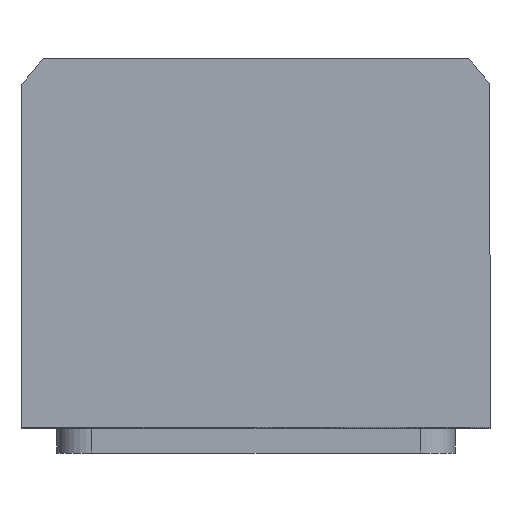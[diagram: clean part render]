
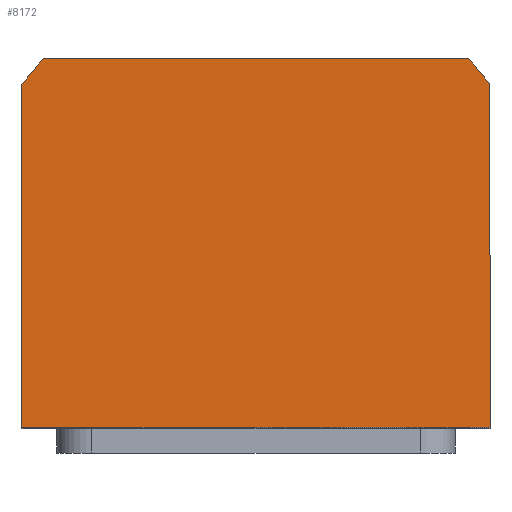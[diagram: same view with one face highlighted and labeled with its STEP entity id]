
A CAD part, top view. The second image highlights one B-rep face of the part: STEP entity #8172.
In plain terms, the highlighted planar face has unit normal (0, 0, 1).
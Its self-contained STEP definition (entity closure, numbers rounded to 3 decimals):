
#295 = ORIENTED_EDGE ( 'NONE', *, *, #4273, .T. ) ;
#638 = CARTESIAN_POINT ( 'NONE',  ( -42.688, 40., 80. ) ) ;
#745 = ORIENTED_EDGE ( 'NONE', *, *, #2583, .T. ) ;
#757 = AXIS2_PLACEMENT_3D ( 'NONE', #14779, #13568, #11237 ) ;
#1028 = VERTEX_POINT ( 'NONE', #1443 ) ;
#1221 = DIRECTION ( 'NONE',  ( 0., 1., 0. ) ) ;
#1443 = CARTESIAN_POINT ( 'NONE',  ( -47., -34., 80. ) ) ;
#1661 = LINE ( 'NONE', #12121, #14105 ) ;
#1721 = ORIENTED_EDGE ( 'NONE', *, *, #14505, .T. ) ;
#2122 = ORIENTED_EDGE ( 'NONE', *, *, #12365, .T. ) ;
#2305 = CARTESIAN_POINT ( 'NONE',  ( -42.688, 40., 80. ) ) ;
#2553 = DIRECTION ( 'NONE',  ( 0., 0., 1. ) ) ;
#2583 = EDGE_CURVE ( 'NONE', #7762, #13221, #4961, .T. ) ;
#2958 = VECTOR ( 'NONE', #1221, 1000. ) ;
#2990 = VERTEX_POINT ( 'NONE', #5923 ) ;
#3685 = DIRECTION ( 'NONE',  ( 1., 0., 0. ) ) ;
#4134 = AXIS2_PLACEMENT_3D ( 'NONE', #10547, #2553, #3685 ) ;
#4143 = CARTESIAN_POINT ( 'NONE',  ( 47., 34.832, 80. ) ) ;
#4158 = CIRCLE ( 'NONE', #4134, 58.5 ) ;
#4169 = CIRCLE ( 'NONE', #14877, 58.5 ) ;
#4273 = EDGE_CURVE ( 'NONE', #1028, #2990, #12123, .T. ) ;
#4422 = CARTESIAN_POINT ( 'NONE',  ( -47., 34.832, 80. ) ) ;
#4961 = LINE ( 'NONE', #638, #8230 ) ;
#5191 = DIRECTION ( 'NONE',  ( 0., -1., 0. ) ) ;
#5473 = FACE_OUTER_BOUND ( 'NONE', #14452, .T. ) ;
#5923 = CARTESIAN_POINT ( 'NONE',  ( 47., -34., 80. ) ) ;
#6718 = CARTESIAN_POINT ( 'NONE',  ( 47., 34.832, 80. ) ) ;
#6770 = EDGE_CURVE ( 'NONE', #8965, #1028, #1661, .T. ) ;
#7081 = LINE ( 'NONE', #6718, #2958 ) ;
#7613 = PLANE ( 'NONE',  #757 ) ;
#7614 = ORIENTED_EDGE ( 'NONE', *, *, #13596, .T. ) ;
#7762 = VERTEX_POINT ( 'NONE', #10472 ) ;
#8172 = ADVANCED_FACE ( 'NONE', ( #5473 ), #7613, .T. ) ;
#8230 = VECTOR ( 'NONE', #13472, 1000. ) ;
#8859 = VERTEX_POINT ( 'NONE', #4143 ) ;
#8965 = VERTEX_POINT ( 'NONE', #4422 ) ;
#10018 = CARTESIAN_POINT ( 'NONE',  ( 0., 0., 80. ) ) ;
#10472 = CARTESIAN_POINT ( 'NONE',  ( 42.688, 40., 80. ) ) ;
#10547 = CARTESIAN_POINT ( 'NONE',  ( 0., 0., 80. ) ) ;
#10654 = VECTOR ( 'NONE', #13055, 1000. ) ;
#10754 = ORIENTED_EDGE ( 'NONE', *, *, #6770, .T. ) ;
#11028 = DIRECTION ( 'NONE',  ( 1., 0., 0. ) ) ;
#11237 = DIRECTION ( 'NONE',  ( 1., 0., 0. ) ) ;
#12121 = CARTESIAN_POINT ( 'NONE',  ( -47., -34., 80. ) ) ;
#12123 = LINE ( 'NONE', #14230, #10654 ) ;
#12365 = EDGE_CURVE ( 'NONE', #2990, #8859, #7081, .T. ) ;
#13055 = DIRECTION ( 'NONE',  ( 1., 0., 0. ) ) ;
#13221 = VERTEX_POINT ( 'NONE', #2305 ) ;
#13350 = DIRECTION ( 'NONE',  ( 0., 0., 1. ) ) ;
#13472 = DIRECTION ( 'NONE',  ( -1., 0., 0. ) ) ;
#13568 = DIRECTION ( 'NONE',  ( 0., 0., 1. ) ) ;
#13596 = EDGE_CURVE ( 'NONE', #13221, #8965, #4169, .T. ) ;
#14105 = VECTOR ( 'NONE', #5191, 1000. ) ;
#14230 = CARTESIAN_POINT ( 'NONE',  ( 47., -34., 80. ) ) ;
#14452 = EDGE_LOOP ( 'NONE', ( #295, #2122, #1721, #745, #7614, #10754 ) ) ;
#14505 = EDGE_CURVE ( 'NONE', #8859, #7762, #4158, .T. ) ;
#14779 = CARTESIAN_POINT ( 'NONE',  ( 0., 0., 80. ) ) ;
#14877 = AXIS2_PLACEMENT_3D ( 'NONE', #10018, #13350, #11028 ) ;
